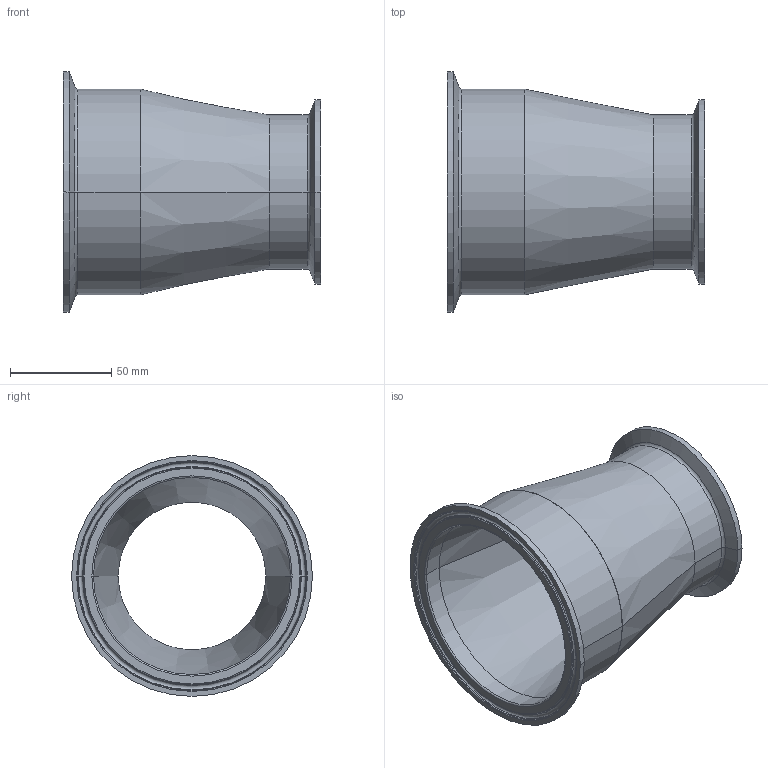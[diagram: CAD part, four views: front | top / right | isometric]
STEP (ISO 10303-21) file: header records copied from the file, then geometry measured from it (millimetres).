
FILE_DESCRIPTION (( 'STEP AP214' ), '1' );
FILE_NAME ('TEG31SCC6I4.0x3.0.STEP', '2016-05-29T14:47:42', ( 'eran' ), ( '' ), 'SwSTEP 2.0', 'SolidWorks 2016', '' );
FILE_SCHEMA (( 'AUTOMOTIVE_DESIGN' ));
Length unit declared in the file: millimetre
Products named in the file (1): TEG31SCC6I4.0x3.0
Bounding box: 127 x 118.92 x 118.92 mm (x, y, z)
Volume: 160616.6 mm3; surface area: 79873 mm2
Topology: 1 solids, 1 shells, 56 faces, 112 edges, 60 vertices
Faces by surface type: torus 22, cone 18, cylinder 12, plane 4
Entity records: 1484 total; most frequent: DIRECTION 308, CARTESIAN_POINT 229, ORIENTED_EDGE 224, AXIS2_PLACEMENT_3D 139, EDGE_CURVE 112, CIRCLE 82, VERTEX_POINT 60, EDGE_LOOP 60
